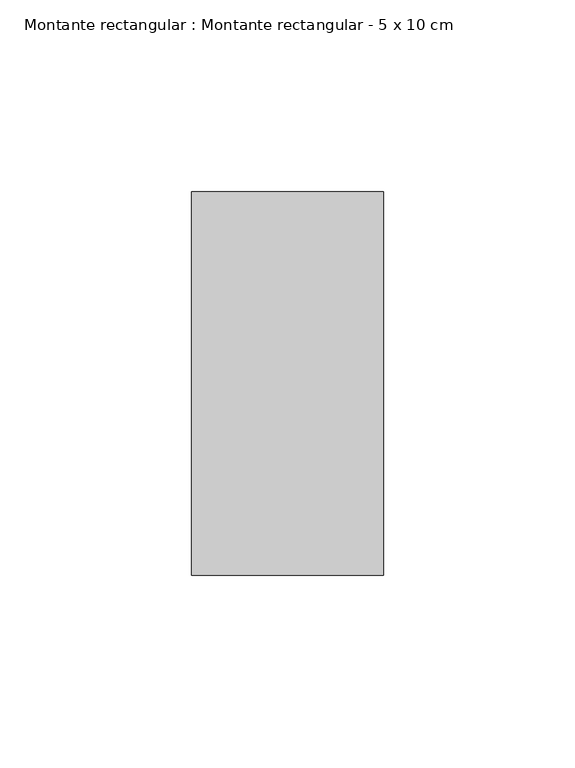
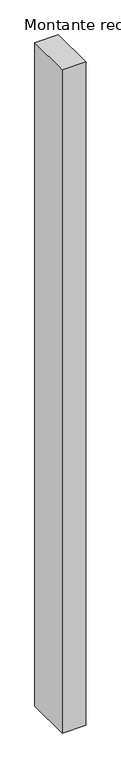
"""IFC4 building model written with IfcOpenShell, lengths in millimetres: member geometry, Montante rectangular : Montante rectangular - 5 x 10 cm."""

from ifc_helpers import new_model, si_unit, frame, origin, place, context, project, spatial, polyline, outline, extrude, source, transform, mapped, element, save


def montante_rectangular_montante_rectangular_5_x_10_cm_e0f9bd98(model_context):
    return source(origin(), model_context, "Body", "SweptSolid", [
        extrude(outline(polyline([(25.0, 50.0), (25.0, -50.0), (-25.0, -50.0), (-25.0, 50.0), (25.0, 50.0)])), frame((0.0, 0.0, -1490.0), z_axis=(0.0, 0.0, 1.0), x_axis=(1.0, 0.0, 0.0)), (0.0, 0.0, 1.0), 1490.0),
    ])


if __name__ == "__main__":
    model = new_model("IFC4")
    model_context = context("Model", 3, world=origin())
    ifc_project = project(units=[si_unit("LENGTHUNIT", "METRE", prefix="MILLI")], contexts=[model_context])
    site = spatial("IfcSite", under=ifc_project)
    building = spatial("IfcBuilding", under=site)
    placement = place(None, origin())
    montante_rectangular_montante_rectangular_5_x_10_cm_shape = montante_rectangular_montante_rectangular_5_x_10_cm_e0f9bd98(model_context)
    element("IfcMember", 1, ObjectType="Montante rectangular : Montante rectangular - 5 x 10 cm", at=placement, inside=building, context=model_context, shape_type="MappedRepresentation", body=[
        mapped(montante_rectangular_montante_rectangular_5_x_10_cm_shape, transform((0.0, 0.0, 0.0), x_axis=(1.0, 0.0, 0.0), y_axis=(0.0, 1.0, 0.0), z_axis=(0.0, 0.0, 1.0))),
    ])
    save(model, "model.ifc")
